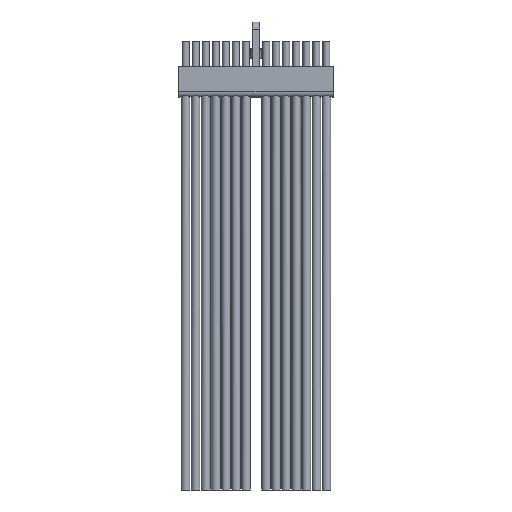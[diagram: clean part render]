
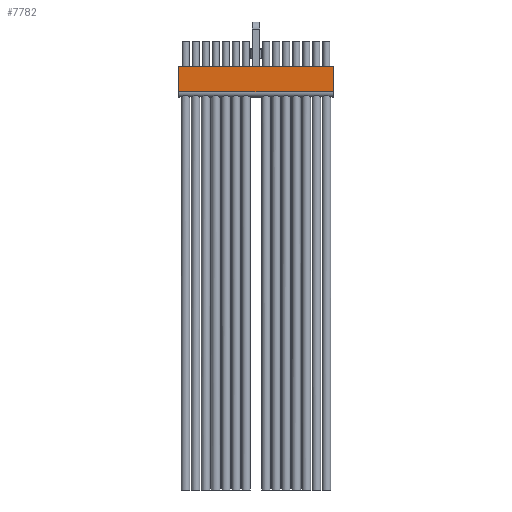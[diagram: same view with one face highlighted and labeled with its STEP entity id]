
A CAD part, front view. The second image highlights one B-rep face of the part: STEP entity #7782.
In plain terms, the highlighted planar face has unit normal (0, -1, 0).
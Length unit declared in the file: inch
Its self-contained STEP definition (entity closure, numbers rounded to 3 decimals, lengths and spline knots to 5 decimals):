
#86 = CARTESIAN_POINT ( 'NONE',  ( 2.1625, -0.0375, -0.0625 ) ) ;
#610 = EDGE_LOOP ( 'NONE', ( #18122, #10172, #11593, #3185 ) ) ;
#682 = AXIS2_PLACEMENT_3D ( 'NONE', #17260, #2996, #13033 ) ;
#705 = VECTOR ( 'NONE', #12861, 39.37008 ) ;
#1353 = FACE_OUTER_BOUND ( 'NONE', #610, .T. ) ;
#1553 = DIRECTION ( 'NONE',  ( -1., 0., 0. ) ) ;
#1723 = VECTOR ( 'NONE', #1553, 39.37008 ) ;
#2382 = CARTESIAN_POINT ( 'NONE',  ( 0.385, -0.0375, 0.0625 ) ) ;
#2996 = DIRECTION ( 'NONE',  ( 0., 1., 0. ) ) ;
#3185 = ORIENTED_EDGE ( 'NONE', *, *, #10121, .F. ) ;
#3365 = VECTOR ( 'NONE', #6732, 39.37008 ) ;
#5060 = CARTESIAN_POINT ( 'NONE',  ( -0.385, -0.0375, 0.0625 ) ) ;
#5523 = LINE ( 'NONE', #86, #1723 ) ;
#6338 = LINE ( 'NONE', #7465, #13956 ) ;
#6375 = EDGE_CURVE ( 'NONE', #11854, #6672, #6338, .T. ) ;
#6672 = VERTEX_POINT ( 'NONE', #13961 ) ;
#6732 = DIRECTION ( 'NONE',  ( 0., 0., -1. ) ) ;
#6812 = CARTESIAN_POINT ( 'NONE',  ( 0.385, -0.0375, -0.0625 ) ) ;
#7157 = CARTESIAN_POINT ( 'NONE',  ( 2.1625, -0.0375, 0.0625 ) ) ;
#7211 = EDGE_CURVE ( 'NONE', #14581, #11854, #10819, .T. ) ;
#7255 = PLANE ( 'NONE',  #682 ) ;
#7404 = DIRECTION ( 'NONE',  ( 0., 0., -1. ) ) ;
#7465 = CARTESIAN_POINT ( 'NONE',  ( -0.385, -0.0375, 0.0625 ) ) ;
#7625 = VERTEX_POINT ( 'NONE', #6812 ) ;
#7782 = ADVANCED_FACE ( 'NONE', ( #1353 ), #7255, .F. ) ;
#8135 = EDGE_CURVE ( 'NONE', #14581, #7625, #15269, .T. ) ;
#10121 = EDGE_CURVE ( 'NONE', #7625, #6672, #5523, .T. ) ;
#10172 = ORIENTED_EDGE ( 'NONE', *, *, #7211, .T. ) ;
#10819 = LINE ( 'NONE', #7157, #705 ) ;
#11061 = CARTESIAN_POINT ( 'NONE',  ( 0.385, -0.0375, 0.0625 ) ) ;
#11593 = ORIENTED_EDGE ( 'NONE', *, *, #6375, .T. ) ;
#11854 = VERTEX_POINT ( 'NONE', #5060 ) ;
#12861 = DIRECTION ( 'NONE',  ( -1., 0., 0. ) ) ;
#13033 = DIRECTION ( 'NONE',  ( 0., 0., 1. ) ) ;
#13956 = VECTOR ( 'NONE', #7404, 39.37008 ) ;
#13961 = CARTESIAN_POINT ( 'NONE',  ( -0.385, -0.0375, -0.0625 ) ) ;
#14581 = VERTEX_POINT ( 'NONE', #2382 ) ;
#15269 = LINE ( 'NONE', #11061, #3365 ) ;
#17260 = CARTESIAN_POINT ( 'NONE',  ( 2.1625, -0.0375, 0.0625 ) ) ;
#18122 = ORIENTED_EDGE ( 'NONE', *, *, #8135, .F. ) ;
